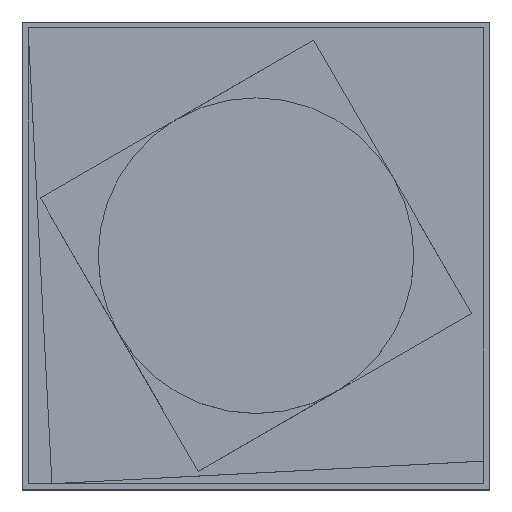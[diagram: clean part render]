
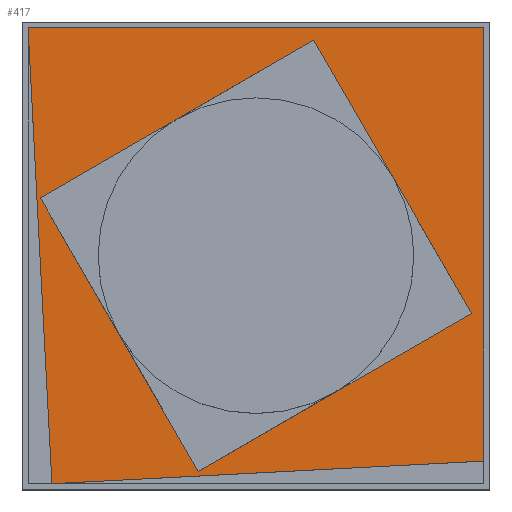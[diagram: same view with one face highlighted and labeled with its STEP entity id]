
A CAD part, top view. The second image highlights one B-rep face of the part: STEP entity #417.
In plain terms, the highlighted planar face has unit normal (0, 0, 1).
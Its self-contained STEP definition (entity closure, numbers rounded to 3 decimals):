
#27=FACE_BOUND('',#65,.T.);
#38=FACE_OUTER_BOUND('',#64,.T.);
#64=EDGE_LOOP('',(#314,#315,#316,#317));
#65=EDGE_LOOP('',(#318,#319,#320,#321));
#105=LINE('',#654,#155);
#106=LINE('',#656,#156);
#107=LINE('',#658,#157);
#108=LINE('',#659,#158);
#109=LINE('',#662,#159);
#110=LINE('',#664,#160);
#111=LINE('',#666,#161);
#112=LINE('',#667,#162);
#155=VECTOR('',#530,10.);
#156=VECTOR('',#531,10.);
#157=VECTOR('',#532,10.);
#158=VECTOR('',#533,10.);
#159=VECTOR('',#534,10.);
#160=VECTOR('',#535,10.);
#161=VECTOR('',#536,10.);
#162=VECTOR('',#537,10.);
#197=VERTEX_POINT('',#652);
#198=VERTEX_POINT('',#653);
#199=VERTEX_POINT('',#655);
#200=VERTEX_POINT('',#657);
#201=VERTEX_POINT('',#660);
#202=VERTEX_POINT('',#661);
#203=VERTEX_POINT('',#663);
#204=VERTEX_POINT('',#665);
#240=EDGE_CURVE('',#197,#198,#105,.T.);
#241=EDGE_CURVE('',#198,#199,#106,.T.);
#242=EDGE_CURVE('',#199,#200,#107,.T.);
#243=EDGE_CURVE('',#200,#197,#108,.T.);
#244=EDGE_CURVE('',#201,#202,#109,.T.);
#245=EDGE_CURVE('',#202,#203,#110,.T.);
#246=EDGE_CURVE('',#203,#204,#111,.T.);
#247=EDGE_CURVE('',#204,#201,#112,.T.);
#314=ORIENTED_EDGE('',*,*,#240,.T.);
#315=ORIENTED_EDGE('',*,*,#241,.T.);
#316=ORIENTED_EDGE('',*,*,#242,.T.);
#317=ORIENTED_EDGE('',*,*,#243,.T.);
#318=ORIENTED_EDGE('',*,*,#244,.T.);
#319=ORIENTED_EDGE('',*,*,#245,.T.);
#320=ORIENTED_EDGE('',*,*,#246,.T.);
#321=ORIENTED_EDGE('',*,*,#247,.T.);
#393=PLANE('',#457);
#417=ADVANCED_FACE('',(#38,#27),#393,.F.);
#457=AXIS2_PLACEMENT_3D('',#651,#528,#529);
#528=DIRECTION('center_axis',(0.,0.,-1.));
#529=DIRECTION('ref_axis',(1.,0.,0.));
#530=DIRECTION('',(0.052,-0.999,0.));
#531=DIRECTION('',(0.999,0.052,0.));
#532=DIRECTION('',(0.,1.,0.));
#533=DIRECTION('',(-1.,0.,0.));
#534=DIRECTION('',(0.866,0.5,0.));
#535=DIRECTION('',(0.5,-0.866,0.));
#536=DIRECTION('',(-0.866,-0.5,0.));
#537=DIRECTION('',(-0.5,0.866,0.));
#651=CARTESIAN_POINT('Origin',(12.466,0.038,42.056));
#652=CARTESIAN_POINT('',(-26.534,39.038,42.056));
#653=CARTESIAN_POINT('',(-22.446,-38.962,42.056));
#654=CARTESIAN_POINT('',(-26.534,39.038,42.056));
#655=CARTESIAN_POINT('',(51.466,-35.089,42.056));
#656=CARTESIAN_POINT('',(-22.446,-38.962,42.056));
#657=CARTESIAN_POINT('',(51.466,39.038,42.056));
#658=CARTESIAN_POINT('',(51.466,-38.962,42.056));
#659=CARTESIAN_POINT('',(51.466,39.038,42.056));
#660=CARTESIAN_POINT('',(-24.417,9.92,42.056));
#661=CARTESIAN_POINT('',(22.349,36.92,42.056));
#662=CARTESIAN_POINT('',(22.349,36.92,42.056));
#663=CARTESIAN_POINT('',(49.349,-9.845,42.056));
#664=CARTESIAN_POINT('',(49.349,-9.845,42.056));
#665=CARTESIAN_POINT('',(2.583,-36.845,42.056));
#666=CARTESIAN_POINT('',(2.583,-36.845,42.056));
#667=CARTESIAN_POINT('',(-24.417,9.92,42.056));
